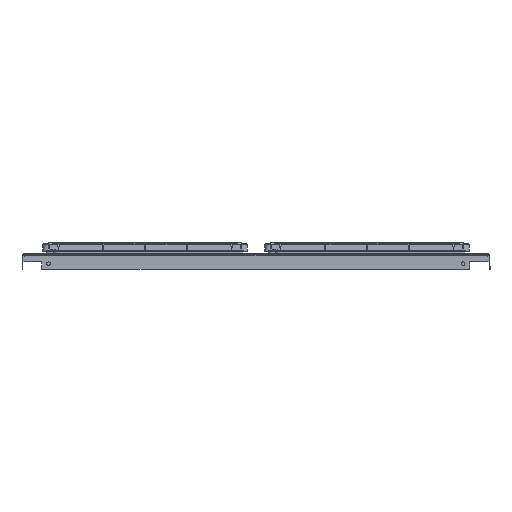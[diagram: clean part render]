
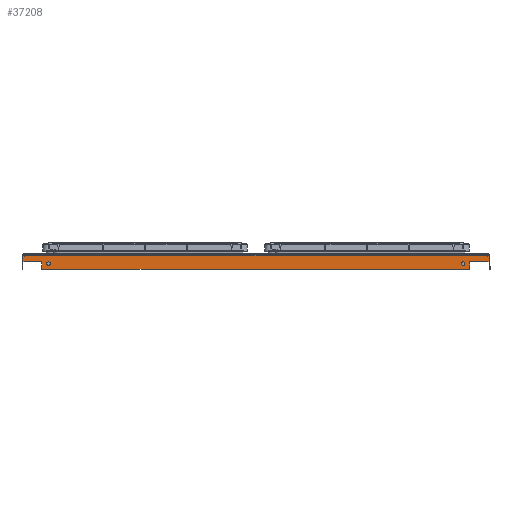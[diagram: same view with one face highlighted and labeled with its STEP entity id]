
A CAD part, front view. The second image highlights one B-rep face of the part: STEP entity #37208.
In plain terms, the highlighted planar face has unit normal (0, -1, 0).
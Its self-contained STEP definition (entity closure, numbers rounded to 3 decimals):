
#2872 = CARTESIAN_POINT ( 'NONE',  ( 13.542, -38.17, -0.932 ) ) ;
#2968 = CARTESIAN_POINT ( 'NONE',  ( -13.576, -38.17, -0.932 ) ) ;
#2988 = CARTESIAN_POINT ( 'NONE',  ( -14.768, -38.17, -0.04 ) ) ;
#3183 = CARTESIAN_POINT ( 'NONE',  ( 13.542, -38.17, -0.44 ) ) ;
#3486 = CARTESIAN_POINT ( 'NONE',  ( 14.768, -38.17, -0.44 ) ) ;
#3672 = CARTESIAN_POINT ( 'NONE',  ( -14.768, -38.17, -0.44 ) ) ;
#3713 = CARTESIAN_POINT ( 'NONE',  ( -13.151, -38.17, -0.666 ) ) ;
#4002 = CARTESIAN_POINT ( 'NONE',  ( -13.576, -38.17, -0.44 ) ) ;
#9619 = DIRECTION ( 'NONE',  ( 0., 0., 1. ) ) ;
#9620 = DIRECTION ( 'NONE',  ( 0., 1., 0. ) ) ;
#9621 = PLANE ( 'NONE',  #80197 ) ;
#9622 = CARTESIAN_POINT ( 'NONE',  ( 14.831, -38.17, 0. ) ) ;
#29363 = CIRCLE ( 'NONE', #73527, 0.11 ) ;
#29395 = CIRCLE ( 'NONE', #73525, 0.11 ) ;
#30821 = DIRECTION ( 'NONE',  ( 0., 0., 1. ) ) ;
#30822 = DIRECTION ( 'NONE',  ( 0., 1., 0. ) ) ;
#30826 = CARTESIAN_POINT ( 'NONE',  ( 13.131, -38.17, -0.557 ) ) ;
#30827 = DIRECTION ( 'NONE',  ( 1., 0., 0. ) ) ;
#30829 = DIRECTION ( 'NONE',  ( 0., 0., -1. ) ) ;
#30831 = CARTESIAN_POINT ( 'NONE',  ( -13.576, -38.17, 0. ) ) ;
#30832 = CARTESIAN_POINT ( 'NONE',  ( 14.831, -38.17, -0.932 ) ) ;
#30833 = DIRECTION ( 'NONE',  ( 1., 0., 0. ) ) ;
#30835 = DIRECTION ( 'NONE',  ( 0., 0., 1. ) ) ;
#30837 = DIRECTION ( 'NONE',  ( 0., 0., 1. ) ) ;
#30838 = CARTESIAN_POINT ( 'NONE',  ( 14.768, -38.17, 0. ) ) ;
#30839 = CARTESIAN_POINT ( 'NONE',  ( -14.768, -38.17, 0. ) ) ;
#30840 = DIRECTION ( 'NONE',  ( 0., 0., 1. ) ) ;
#30841 = CARTESIAN_POINT ( 'NONE',  ( 13.542, -38.17, 0. ) ) ;
#30846 = CARTESIAN_POINT ( 'NONE',  ( 14.831, -38.17, -0.44 ) ) ;
#30848 = DIRECTION ( 'NONE',  ( 1., 0., 0. ) ) ;
#30850 = DIRECTION ( 'NONE',  ( 0., 0., 1. ) ) ;
#30852 = DIRECTION ( 'NONE',  ( 1., 0., 0. ) ) ;
#30853 = DIRECTION ( 'NONE',  ( 0., 1., 0. ) ) ;
#30856 = CARTESIAN_POINT ( 'NONE',  ( 14.831, -38.17, -0.44 ) ) ;
#30857 = CARTESIAN_POINT ( 'NONE',  ( 14.831, -38.17, -0.04 ) ) ;
#30875 = CARTESIAN_POINT ( 'NONE',  ( -13.151, -38.17, -0.557 ) ) ;
#31289 = DIRECTION ( 'NONE',  ( 0., 0., 1. ) ) ;
#31290 = DIRECTION ( 'NONE',  ( 0., 1., 0. ) ) ;
#31293 = CARTESIAN_POINT ( 'NONE',  ( -13.151, -38.17, -0.557 ) ) ;
#31308 = DIRECTION ( 'NONE',  ( 0., 0., 1. ) ) ;
#31309 = DIRECTION ( 'NONE',  ( 0., 1., 0. ) ) ;
#31311 = CARTESIAN_POINT ( 'NONE',  ( 13.131, -38.17, -0.557 ) ) ;
#35285 = VERTEX_POINT ( 'NONE', #51027 ) ;
#35297 = VERTEX_POINT ( 'NONE', #50967 ) ;
#35307 = VERTEX_POINT ( 'NONE', #50944 ) ;
#35403 = VECTOR ( 'NONE', #30829, 39.37 ) ;
#35480 = CIRCLE ( 'NONE', #73436, 0.11 ) ;
#35497 = LINE ( 'NONE', #30846, #35561 ) ;
#35561 = VECTOR ( 'NONE', #30833, 39.37 ) ;
#35580 = VECTOR ( 'NONE', #30837, 39.37 ) ;
#35597 = LINE ( 'NONE', #30856, #35767 ) ;
#35635 = VERTEX_POINT ( 'NONE', #3713 ) ;
#35652 = VERTEX_POINT ( 'NONE', #3672 ) ;
#35677 = LINE ( 'NONE', #30857, #36086 ) ;
#35733 = VERTEX_POINT ( 'NONE', #3486 ) ;
#35761 = VECTOR ( 'NONE', #30827, 39.37 ) ;
#35767 = VECTOR ( 'NONE', #30848, 39.37 ) ;
#35862 = VECTOR ( 'NONE', #30840, 39.37 ) ;
#35975 = VERTEX_POINT ( 'NONE', #3183 ) ;
#36025 = VECTOR ( 'NONE', #30835, 39.37 ) ;
#36079 = LINE ( 'NONE', #30839, #36025 ) ;
#36080 = VERTEX_POINT ( 'NONE', #2988 ) ;
#36086 = VECTOR ( 'NONE', #30852, 39.37 ) ;
#36099 = VERTEX_POINT ( 'NONE', #2968 ) ;
#36135 = CIRCLE ( 'NONE', #73434, 0.11 ) ;
#36149 = VERTEX_POINT ( 'NONE', #2872 ) ;
#36170 = LINE ( 'NONE', #30831, #35403 ) ;
#36194 = LINE ( 'NONE', #30838, #35580 ) ;
#36224 = LINE ( 'NONE', #30832, #35761 ) ;
#36259 = LINE ( 'NONE', #30841, #35862 ) ;
#36320 = VERTEX_POINT ( 'NONE', #4002 ) ;
#36402 = VERTEX_POINT ( 'NONE', #69929 ) ;
#37208 = ADVANCED_FACE ( 'NONE', ( #46021, #46024, #46019 ), #9621, .F. ) ;
#46019 = FACE_BOUND ( 'NONE', #66230, .T. ) ;
#46021 = FACE_BOUND ( 'NONE', #66226, .T. ) ;
#46024 = FACE_OUTER_BOUND ( 'NONE', #66229, .T. ) ;
#49286 = ORIENTED_EDGE ( 'NONE', *, *, #62129, .T. ) ;
#49287 = ORIENTED_EDGE ( 'NONE', *, *, #62137, .T. ) ;
#49288 = ORIENTED_EDGE ( 'NONE', *, *, #62139, .F. ) ;
#49289 = ORIENTED_EDGE ( 'NONE', *, *, #62144, .T. ) ;
#50908 = ORIENTED_EDGE ( 'NONE', *, *, #62136, .T. ) ;
#50944 = CARTESIAN_POINT ( 'NONE',  ( -13.151, -38.17, -0.447 ) ) ;
#50967 = CARTESIAN_POINT ( 'NONE',  ( 13.131, -38.17, -0.447 ) ) ;
#51027 = CARTESIAN_POINT ( 'NONE',  ( 13.131, -38.17, -0.666 ) ) ;
#51077 = ORIENTED_EDGE ( 'NONE', *, *, #62141, .T. ) ;
#51080 = ORIENTED_EDGE ( 'NONE', *, *, #62142, .T. ) ;
#51083 = ORIENTED_EDGE ( 'NONE', *, *, #62148, .T. ) ;
#51086 = ORIENTED_EDGE ( 'NONE', *, *, #61943, .T. ) ;
#51115 = ORIENTED_EDGE ( 'NONE', *, *, #61950, .T. ) ;
#51145 = ORIENTED_EDGE ( 'NONE', *, *, #62126, .F. ) ;
#51148 = ORIENTED_EDGE ( 'NONE', *, *, #62131, .T. ) ;
#61943 = EDGE_CURVE ( 'NONE', #35285, #35297, #29395, .T. ) ;
#61950 = EDGE_CURVE ( 'NONE', #35635, #35307, #29363, .T. ) ;
#62126 = EDGE_CURVE ( 'NONE', #36080, #36402, #35677, .T. ) ;
#62129 = EDGE_CURVE ( 'NONE', #35307, #35635, #36135, .T. ) ;
#62131 = EDGE_CURVE ( 'NONE', #35975, #35733, #35597, .T. ) ;
#62136 = EDGE_CURVE ( 'NONE', #36149, #35975, #36259, .T. ) ;
#62137 = EDGE_CURVE ( 'NONE', #35733, #36402, #36194, .T. ) ;
#62139 = EDGE_CURVE ( 'NONE', #35652, #36080, #36079, .T. ) ;
#62141 = EDGE_CURVE ( 'NONE', #35652, #36320, #35497, .T. ) ;
#62142 = EDGE_CURVE ( 'NONE', #36320, #36099, #36170, .T. ) ;
#62144 = EDGE_CURVE ( 'NONE', #36099, #36149, #36224, .T. ) ;
#62148 = EDGE_CURVE ( 'NONE', #35297, #35285, #35480, .T. ) ;
#66226 = EDGE_LOOP ( 'NONE', ( #51115, #49286 ) ) ;
#66229 = EDGE_LOOP ( 'NONE', ( #50908, #51148, #49287, #51145, #49288, #51077, #51080, #49289 ) ) ;
#66230 = EDGE_LOOP ( 'NONE', ( #51086, #51083 ) ) ;
#69929 = CARTESIAN_POINT ( 'NONE',  ( 14.768, -38.17, -0.04 ) ) ;
#73434 = AXIS2_PLACEMENT_3D ( 'NONE', #30875, #30853, #30850 ) ;
#73436 = AXIS2_PLACEMENT_3D ( 'NONE', #30826, #30822, #30821 ) ;
#73525 = AXIS2_PLACEMENT_3D ( 'NONE', #31311, #31309, #31308 ) ;
#73527 = AXIS2_PLACEMENT_3D ( 'NONE', #31293, #31290, #31289 ) ;
#80197 = AXIS2_PLACEMENT_3D ( 'NONE', #9622, #9620, #9619 ) ;
